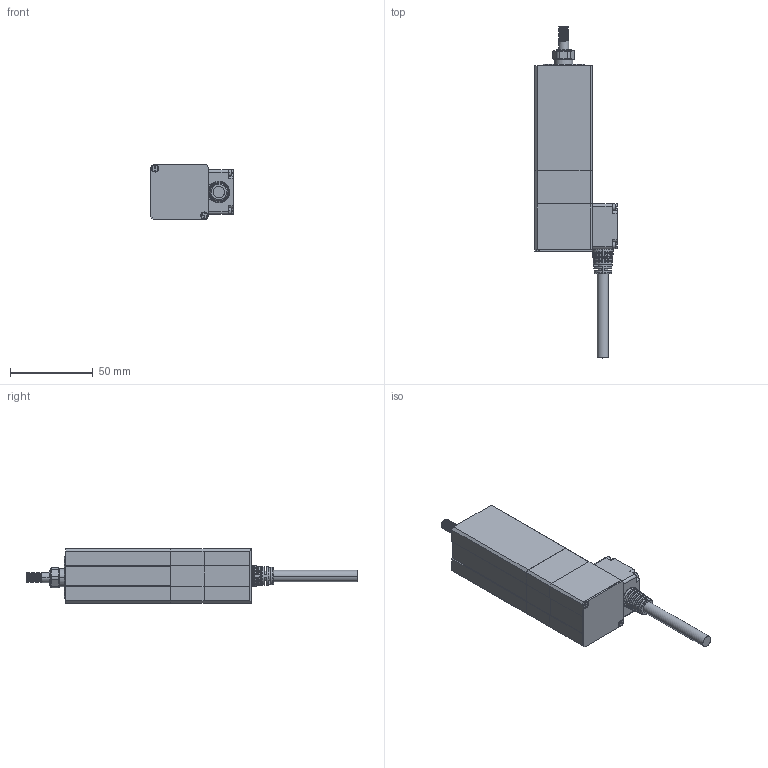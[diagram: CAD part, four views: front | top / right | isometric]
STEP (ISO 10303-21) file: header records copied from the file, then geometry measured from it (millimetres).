
FILE_DESCRIPTION (( 'STEP AP214' ), '1' );
FILE_NAME ('RCEA-3M-050-C-O-F_潠眢耀倰V1.0_20250311.STEP', '2025-03-11T06:14:48', ( '' ), ( '' ), 'SwSTEP 2.0', 'SolidWorks 2020', '' );
FILE_SCHEMA (( 'AUTOMOTIVE_DESIGN' ));
Length unit declared in the file: millimetre
Products named in the file (4): Group3^RCEA-3M-050-C-O-F_潠眢耀倰V1.0_20250311; Group1^RCEA-3M-050-C-O-F_潠眢耀倰V1.0_20250311; RCEA-3M-050-C-O-F_潠眢耀倰V1.0_20250311; Group2^RCEA-3M-050-C-O-F_潠眢耀倰V1.0_20250311
Assembly tree (3 placements, depth 2):
  RCEA-3M-050-C-O-F_潠眢耀倰V1.0_20250311
    Group1^RCEA-3M-050-C-O-F_潠眢耀倰V1.0_20250311
    Group2^RCEA-3M-050-C-O-F_潠眢耀倰V1.0_20250311
    Group3^RCEA-3M-050-C-O-F_潠眢耀倰V1.0_20250311
Bounding box: 49.85 x 200.5 x 33 mm (x, y, z)
Volume: 114918 mm3; surface area: 39200.1 mm2
Topology: 16 solids, 20 shells, 808 faces, 2069 edges, 1322 vertices
Faces by surface type: plane 326, cylinder 298, cone 116, bspline 37, torus 31
Entity records: 37171 total; most frequent: CARTESIAN_POINT 8657, ORIENTED_EDGE 4086, DIRECTION 4007, EDGE_CURVE 2043, AXIS2_PLACEMENT_3D 1449, VERTEX_POINT 1322, LINE 1109, VECTOR 1109
